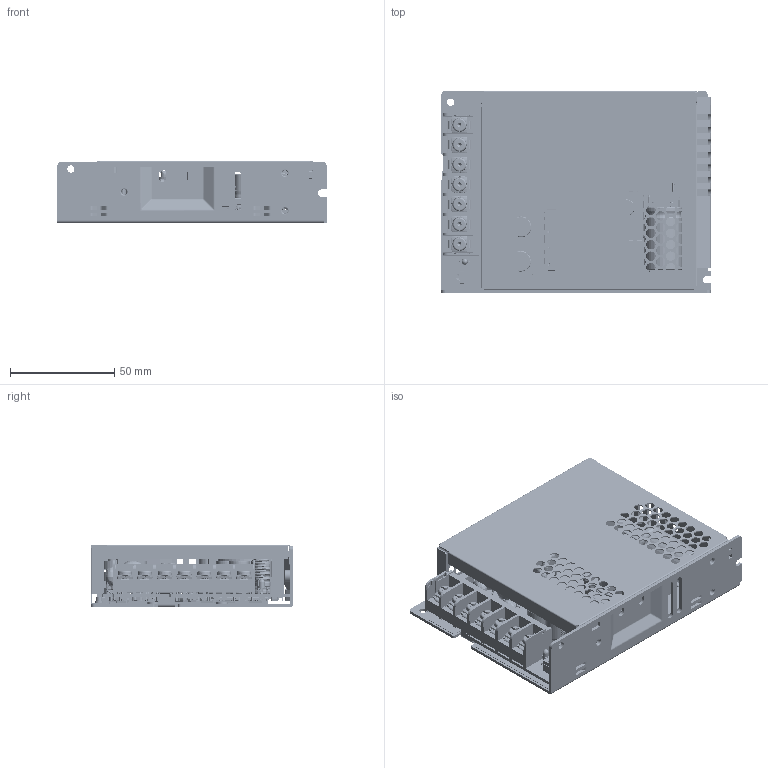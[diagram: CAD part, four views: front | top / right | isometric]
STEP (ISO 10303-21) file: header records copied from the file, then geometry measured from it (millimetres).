
FILE_DESCRIPTION((''),'2;1');
FILE_NAME('PMR-XXV150W1AT_ASM_ASM','2024-02-01T13:45:44',('EUNICE.HUANG'),(''),'CREO PARAMETRIC BY PTC INC, 2020053','CREO PARAMETRIC BY PTC INC, 2020053','');
FILE_SCHEMA(('CONFIG_CONTROL_DESIGN','GEOMETRIC_VALIDATION_PROPERTIES_MIM'));
Products named in the file (408): BOARD_1_1_1; 2924002726_B-0603-Z1_1_1_1; DESIGNATOR1_ASM_1_ASM_1_ASM_1_ASM; 51813100R1_85_1_2_1_1_1; PIN-1_15_1_2_3_4_1_1_1_1; PIN-1_15_1_2_3_4_2_1_1_1; PIN-1_15_1_2_3_4_3_1_1_1; PIN-1_15_1_2_3_4_4_1_1_1; PIN-1_15_1_2_3_4_ASM_ASM_1_ASM__ASM; PIN-2_12_1_2_3_4_1_1_1_1; PIN-2_12_1_2_3_4_2_1_1_1; PIN-2_12_1_2_3_4_3_1_1_1; PIN-2_12_1_2_3_4_4_1_1_1; PIN-2_12_1_2_3_4_ASM_ASM_1_ASM__ASM; CORE_EQ3019_8_1_2_1_1_1; WIRE_6_1_2_1_1_1; WIRE-1_6_1_2_1_1_1; OUTERSHIELD_5_1_2_1_1_1; OUTERTAPE_4_1_2_1_1_1; 51813100R1_ASM_43_1_2_ASM_ASM_1_ASM; ASM0002_ASM_ASM_1_ASM_1_ASM_1_ASM; 2870763500_ASM_1_ASM_1_ASM_1_ASM; T1_ASM_1_ASM_1_ASM_1_ASM; 200901370146_1_1_1; BD1_ASM_1_ASM_1_ASM_1_ASM; BD2_ASM_1_ASM_1_ASM_1_ASM; 1512445002-1_1_1_1; 1512445002_ASM_1_ASM_1_ASM_1_ASM; C48_ASM_1_ASM_1_ASM_1_ASM; 203852570034_1_1_1; ZD33_ASM_1_ASM_1_ASM_1_ASM; 2306007105_1_1_1; LED101_ASM_1_ASM_1_ASM_1_ASM; OPEN_CASCADE_STEP_TRANSLA-47046; OPEN_CASCADE_STEP_TRANSLA-48125; 0910700716-47032_ASM_1_ASM_1_AS_ASM; 0910700716-47015_ASM_1_ASM_1_AS_ASM; NTC1_ASM_1_ASM_1_ASM_1_ASM; 2816172553-WIRE_1_1_1; 2816172553-CENTER_1_1_1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
Assembly tree (693 placements, depth 15):
  PMR-XXV150W1AT_ASM_ASM
    PMR-XXV150W1AT_ASM_1_ASM
      PMR-12V150W1ATR1C1_ASM_ASM_1_AS_ASM
        PMR-12V150W1ATR1C1_ASM_1_ASM_1__ASM
          PCB_ASM_1_ASM_1_ASM_1_ASM
            BOARD_1_1_1
            DESIGNATOR1_ASM_1_ASM_1_ASM_1_ASM
              2924002726_B-0603-Z1_1_1_1
            T1_ASM_1_ASM_1_ASM_1_ASM
              2870763500_ASM_1_ASM_1_ASM_1_ASM
                ASM0002_ASM_ASM_1_ASM_1_ASM_1_ASM
                  51813100R1_ASM_43_1_2_ASM_ASM_1_ASM
                    CORE_EQ3019_8_1_2_1_1_1  x2
            BD1_ASM_1_ASM_1_ASM_1_ASM
              200901370146_1_1_1
            BD2_ASM_1_ASM_1_ASM_1_ASM
              200901370146_1_1_1
            C48_ASM_1_ASM_1_ASM_1_ASM
              1512445002_ASM_1_ASM_1_ASM_1_ASM
                1512445002-1_1_1_1
            ZD33_ASM_1_ASM_1_ASM_1_ASM
              203852570034_1_1_1
            LED101_ASM_1_ASM_1_ASM_1_ASM
              2306007105_1_1_1
            NTC1_ASM_1_ASM_1_ASM_1_ASM
              0910700716-47015_ASM_1_ASM_1_AS_ASM
                0910700716-47032_ASM_1_ASM_1_AS_ASM
                  OPEN_CASCADE_STEP_TRANSLA-47046
                  OPEN_CASCADE_STEP_TRANSLA-48125
            L100_ASM_1_ASM_1_ASM_1_ASM
              2816172553_ASM_1_ASM_1_ASM_1_ASM
                2816172553-WIRE_1_1_1
                2816172553-CENTER_1_1_1
            L100A_ASM_1_ASM_1_ASM_1_ASM
              2816543653_ASM_1_ASM_1_ASM_1_ASM
                2816543653-WIRE_ASM_1_ASM_1_ASM_ASM
                  2816543653-WIRE_1_1_1_1
                  2816543653-WIRE_2_1_1_1
                  2816543653-WIRE_3_1_1_1
                  2816543653-WIRE_4_1_1_1
                  2816543653-WIRE_5_1_1_1
                  2816543653-WIRE_6_1_1_1
                  2816543653-WIRE_7_1_1_1
                  2816543653-WIRE_8_1_1_1
                  2816543653-WIRE_9_1_1_1
                  2816543653-WIRE_10_1_1_1
                  2816543653-WIRE_11_1_1_1
                  2816543653-WIRE_12_1_1_1
                  2816543653-WIRE_13_1_1_1
                  2816543653-WIRE_14_1_1_1
                  2816543653-WIRE_15_1_1_1
                  2816543653-WIRE_16_1_1_1
                2816543653-CEMTER_1_1_1
            L1_ASM_1_ASM_1_ASM_1_ASM
              2876443201_ASM_1_ASM_1_ASM_1_ASM
                CRV-NB21059_ASM_3_ASM_ASM_1_ASM_ASM
                  WIRE_4_ASM_ASM_1_ASM_1_ASM_1_ASM
                  3175585300_BASE_6_ASM_ASM_1_ASM_ASM
            CX1_ASM_1_ASM_1_ASM_1_ASM
              1609050873_1_1_1
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Bounding box: 129 x 97 x 30 mm (x, y, z)
Topology: 509 solids, 510 shells, 14502 faces, 37278 edges, 23760 vertices
Faces by surface type: plane 7196, cylinder 5013, torus 1361, bspline 669, sphere 165, cone 78, extrusion 12, revolution 8
Entity records: 305216 total; most frequent: CARTESIAN_POINT 72462, DIRECTION 39665, ORIENTED_EDGE 35078, EDGE_CURVE 17545, AXIS2_PLACEMENT_3D 15159, PRESENTATION_STYLE_ASSIGNMENT 11893, STYLED_ITEM 11619, VERTEX_POINT 10997
